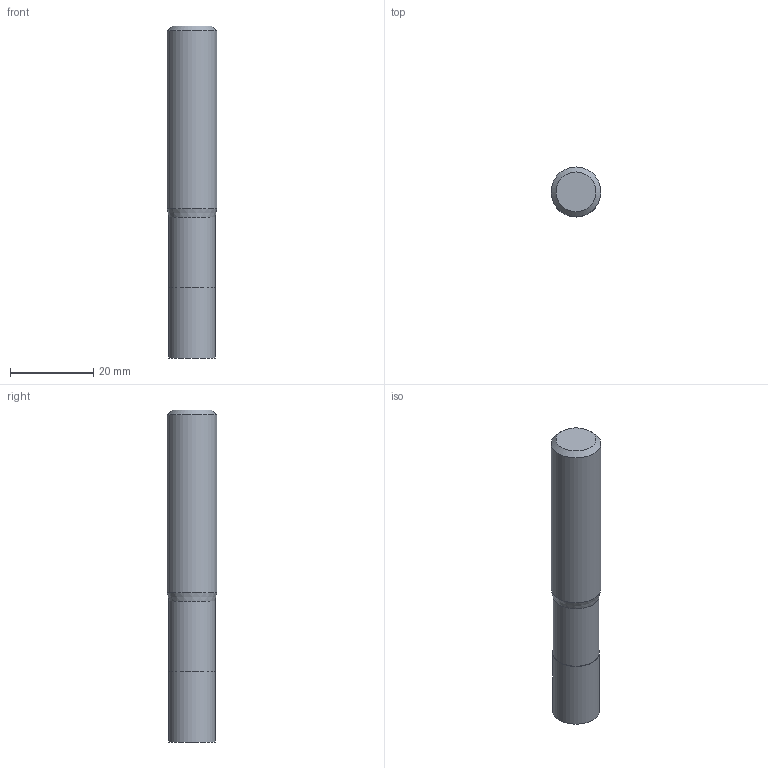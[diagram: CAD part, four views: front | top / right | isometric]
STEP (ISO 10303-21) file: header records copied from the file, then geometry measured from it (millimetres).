
FILE_DESCRIPTION((''),'2;1');
FILE_NAME('C:\Users\nsx150\AppData\Local\Temp\Mastercam 2021\EUJSUNXURU\TEMP.step','2021-04-22T10:30:17',(''),(''),'STEP Write','Mastercam 2021 ... CNC Software, Inc.','');
FILE_SCHEMA(('AUTOMOTIVE_DESIGN'));
Length unit declared in the file: millimetre
Products named in the file (1): None
Bounding box: 12 x 12 x 80 mm (x, y, z)
Volume: 8511.2 mm3; surface area: 3311.6 mm2
Topology: 2 solids, 2 shells, 9 faces, 12 edges, 7 vertices
Faces by surface type: plane 4, cylinder 3, cone 2
Full cylindrical faces by diameter (mm): 11.1 x1, 11.3 x1, 12 x1
Entity records: 211 total; most frequent: DIRECTION 36, CARTESIAN_POINT 25, AXIS2_PLACEMENT_3D 18, ORIENTED_EDGE 14, EDGE_LOOP 14, STYLED_ITEM 12, ADVANCED_FACE 9, FACE_BOUND 8
